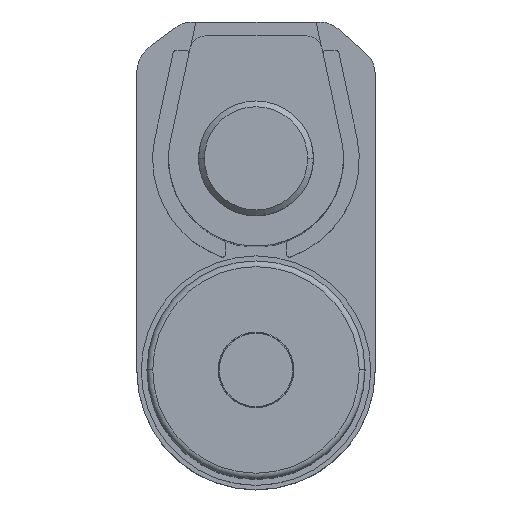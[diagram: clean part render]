
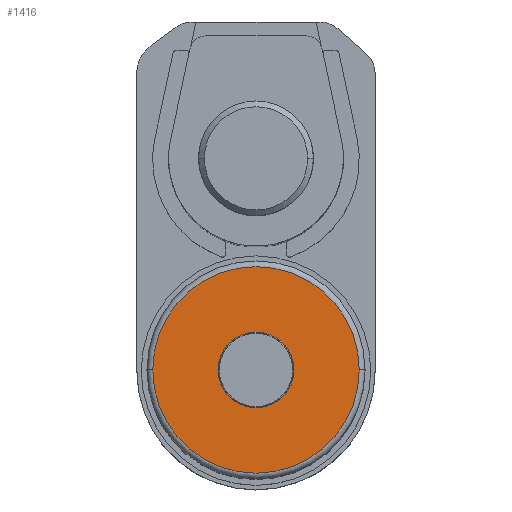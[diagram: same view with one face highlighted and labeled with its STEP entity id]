
A CAD part, top view. The second image highlights one B-rep face of the part: STEP entity #1416.
In plain terms, the highlighted planar face has unit normal (0, 0, 1).
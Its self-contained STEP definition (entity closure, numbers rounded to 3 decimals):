
#79 = EDGE_CURVE ( 'NONE', #4302, #5296, #1079, .T. ) ;
#120 = CARTESIAN_POINT ( 'NONE',  ( 0., -20.751, 93. ) ) ;
#390 = ORIENTED_EDGE ( 'NONE', *, *, #2529, .T. ) ;
#553 = DIRECTION ( 'NONE',  ( 0., 0., 1. ) ) ;
#573 = CARTESIAN_POINT ( 'NONE',  ( 0., -20.751, 93. ) ) ;
#925 = VERTEX_POINT ( 'NONE', #1451 ) ;
#1021 = DIRECTION ( 'NONE',  ( 1., 0., 0. ) ) ;
#1079 = CIRCLE ( 'NONE', #3518, 18. ) ;
#1161 = CARTESIAN_POINT ( 'NONE',  ( 0., -20.751, 93. ) ) ;
#1284 = DIRECTION ( 'NONE',  ( 0., 0., 1. ) ) ;
#1391 = CARTESIAN_POINT ( 'NONE',  ( 6.6, -20.751, 93. ) ) ;
#1416 = ADVANCED_FACE ( 'NONE', ( #1594, #3908 ), #5304, .T. ) ;
#1443 = EDGE_CURVE ( 'NONE', #925, #2215, #2619, .T. ) ;
#1451 = CARTESIAN_POINT ( 'NONE',  ( -6.6, -20.751, 93. ) ) ;
#1529 = AXIS2_PLACEMENT_3D ( 'NONE', #573, #3615, #1021 ) ;
#1594 = FACE_BOUND ( 'NONE', #4593, .T. ) ;
#1800 = CARTESIAN_POINT ( 'NONE',  ( -18., -20.751, 93. ) ) ;
#1855 = CARTESIAN_POINT ( 'NONE',  ( 0., -20.751, 93. ) ) ;
#2215 = VERTEX_POINT ( 'NONE', #1391 ) ;
#2266 = EDGE_CURVE ( 'NONE', #5296, #4302, #2441, .T. ) ;
#2310 = DIRECTION ( 'NONE',  ( 1., 0., 0. ) ) ;
#2402 = AXIS2_PLACEMENT_3D ( 'NONE', #120, #553, #3601 ) ;
#2441 = CIRCLE ( 'NONE', #4775, 18. ) ;
#2497 = DIRECTION ( 'NONE',  ( 0., 0., -1. ) ) ;
#2529 = EDGE_CURVE ( 'NONE', #2215, #925, #3381, .T. ) ;
#2619 = CIRCLE ( 'NONE', #1529, 6.6 ) ;
#3381 = CIRCLE ( 'NONE', #5530, 6.6 ) ;
#3518 = AXIS2_PLACEMENT_3D ( 'NONE', #1161, #1284, #3692 ) ;
#3601 = DIRECTION ( 'NONE',  ( 1., 0., 0. ) ) ;
#3615 = DIRECTION ( 'NONE',  ( 0., 0., -1. ) ) ;
#3692 = DIRECTION ( 'NONE',  ( 1., 0., 0. ) ) ;
#3839 = EDGE_LOOP ( 'NONE', ( #4612, #5341 ) ) ;
#3908 = FACE_OUTER_BOUND ( 'NONE', #3839, .T. ) ;
#4302 = VERTEX_POINT ( 'NONE', #1800 ) ;
#4593 = EDGE_LOOP ( 'NONE', ( #390, #4623 ) ) ;
#4612 = ORIENTED_EDGE ( 'NONE', *, *, #2266, .T. ) ;
#4623 = ORIENTED_EDGE ( 'NONE', *, *, #1443, .T. ) ;
#4775 = AXIS2_PLACEMENT_3D ( 'NONE', #1855, #4892, #2310 ) ;
#4892 = DIRECTION ( 'NONE',  ( 0., 0., 1. ) ) ;
#5077 = CARTESIAN_POINT ( 'NONE',  ( 0., -20.751, 93. ) ) ;
#5109 = CARTESIAN_POINT ( 'NONE',  ( 18., -20.751, 93. ) ) ;
#5296 = VERTEX_POINT ( 'NONE', #5109 ) ;
#5304 = PLANE ( 'NONE',  #2402 ) ;
#5341 = ORIENTED_EDGE ( 'NONE', *, *, #79, .T. ) ;
#5502 = DIRECTION ( 'NONE',  ( 1., 0., 0. ) ) ;
#5530 = AXIS2_PLACEMENT_3D ( 'NONE', #5077, #2497, #5502 ) ;
